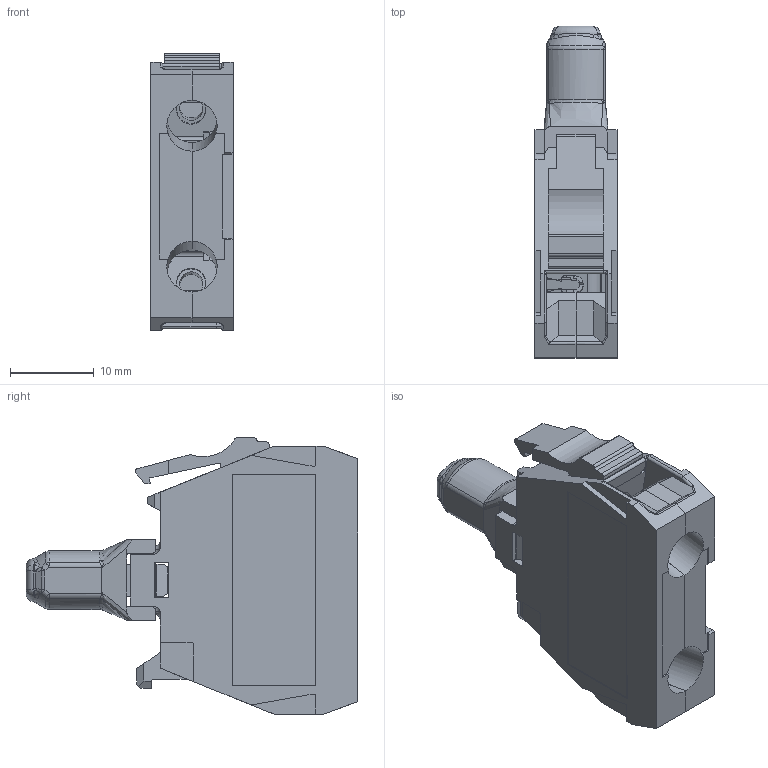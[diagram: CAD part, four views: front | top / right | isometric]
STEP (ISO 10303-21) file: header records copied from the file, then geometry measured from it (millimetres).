
FILE_DESCRIPTION((''),'2;1');
FILE_NAME('152833001AF7_ASM','2024-03-20T22:29:50',('SESA242355'),('Schneider-Electric'),'CREO PARAMETRIC BY PTC INC, 2021284','CREO PARAMETRIC BY PTC INC, 2021284','');
FILE_SCHEMA(('AP242_MANAGED_MODEL_BASED_3D_ENGINEERING_MIM_LF { 1 0 10303 442 1 1 4 }'));
Length unit declared in the file: millimetre
Products named in the file (9): 152833201AF6; 152833301AF6; VIS-LIBRE_MIG02_ASM; 152800301AF7_ASM; 152833701AF6; 152833601AF6; W816565870111_ASM; S1B7481302; 152833001AF7_ASM
Assembly tree (8 placements, depth 2):
  152833001AF7_ASM
    152833201AF6
    152833301AF6
    VIS-LIBRE_MIG02_ASM
    152800301AF7_ASM
    152833701AF6
    152833601AF6
    W816565870111_ASM
    S1B7481302
Bounding box: 9.8 x 39.6 x 33 mm (x, y, z)
Volume: 4048.8 mm3; surface area: 6971 mm2
Topology: 5 solids, 5 shells, 1273 faces, 3393 edges, 2145 vertices
Faces by surface type: plane 791, cylinder 315, bspline 71, torus 40, sphere 36, cone 20
Entity records: 54044 total; most frequent: CARTESIAN_POINT 12461, ORIENTED_EDGE 6764, DIRECTION 6022, PRESENTATION_STYLE_ASSIGNMENT 3387, STYLED_ITEM 3387, CURVE_STYLE 3382, EDGE_CURVE 3382, VECTOR 2460
